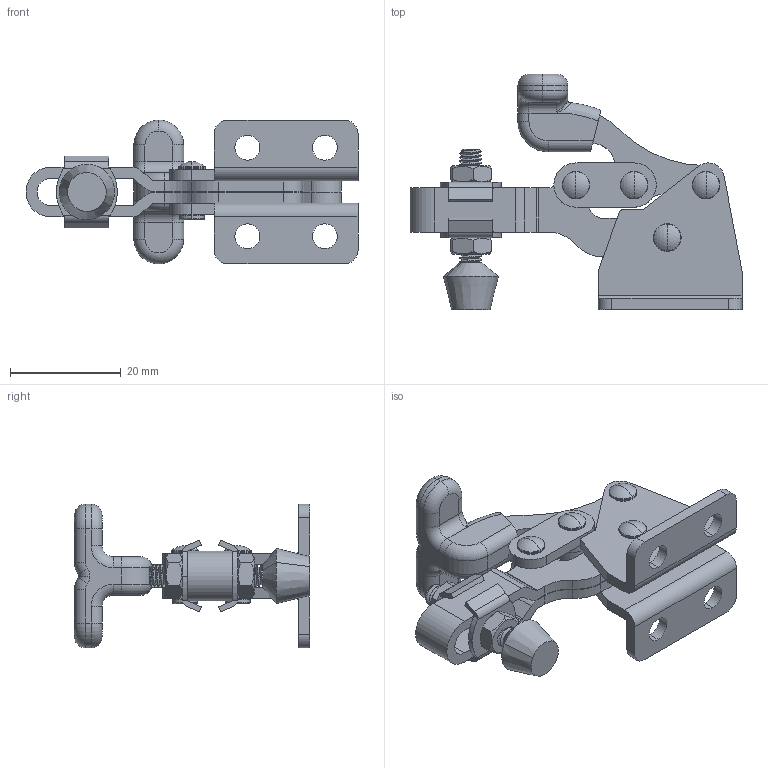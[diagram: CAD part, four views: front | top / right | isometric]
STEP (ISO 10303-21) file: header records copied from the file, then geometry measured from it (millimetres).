
FILE_DESCRIPTION (( 'STEP AP203' ), '1' );
FILE_NAME ('SK3-021H-1.STEP', '2018-11-01T08:22:35', ( 'admin' ), ( 'Microsoft' ), 'SwSTEP 2.0', 'SolidWorks 2015', '' );
FILE_SCHEMA (( 'CONFIG_CONTROL_DESIGN' ));
Length unit declared in the file: millimetre
Products named in the file (12): SK3-021H-1砎蝶參忒; SK3-021H-1种隊; SK3-021H-1蜇璃3; SK3-021H-1釱赽衵; SK3-021H-1蜇璃4; SK3-021H-1釱赽酘; M4; SK3-021H-1參忒衵; SK3-021H-1; SK3-021H-1參忒酘; SK3-021H-1蜇璃1; SK3-021H-1蜇璃2
Assembly tree (17 placements, depth 2):
  SK3-021H-1
    SK3-021H-1釱赽衵
    SK3-021H-1釱赽酘
    SK3-021H-1參忒衵
    SK3-021H-1參忒酘
    SK3-021H-1蜇璃1  x2
    SK3-021H-1蜇璃2
    SK3-021H-1砎蝶參忒
    SK3-021H-1种隊  x4
    SK3-021H-1蜇璃3
    SK3-021H-1蜇璃4  x2
    M4  x2
Bounding box: 60 x 42.5 x 26 mm (x, y, z)
Volume: 8702.9 mm3; surface area: 12014.1 mm2
Topology: 17 solids, 17 shells, 539 faces, 1349 edges, 857 vertices
Faces by surface type: cylinder 271, plane 142, torus 90, cone 15, bspline 13, sphere 8
Entity records: 18144 total; most frequent: CARTESIAN_POINT 6599, DIRECTION 2169, ORIENTED_EDGE 2158, EDGE_CURVE 1079, AXIS2_PLACEMENT_3D 856, VERTEX_POINT 690, EDGE_LOOP 459, VECTOR 457
